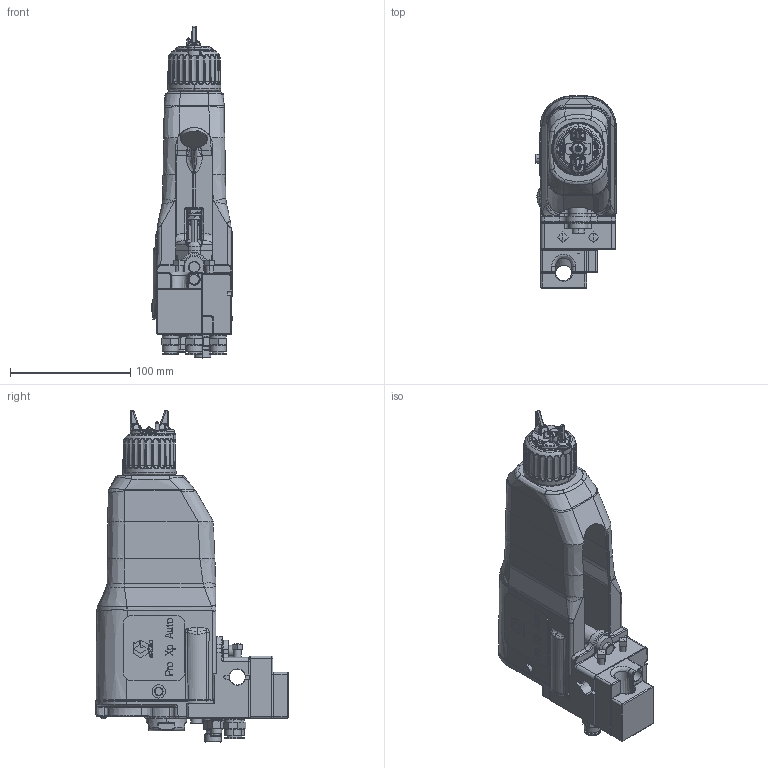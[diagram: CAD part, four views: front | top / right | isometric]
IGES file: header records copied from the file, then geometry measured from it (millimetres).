
Start section:  PTC IGES file: ha1t18-en-k.igs
Global section: file name: ha1t18-en-k.igs; native system: Creo Parametric by PTC Inc.; preprocessor: 2019030; author: qusrh3; organization: Unknown; date: 20200101.120846; units: inch
Bounding box: 67.94 x 159.66 x 275.71 mm (x, y, z)
Surface area: 207717.7 mm2 (no closed solid volume)
Topology: 0 solids, 0 shells, 2529 faces, 12470 edges, 12460 vertices
Faces by surface type: bspline 1673, revolution 826, extrusion 30
